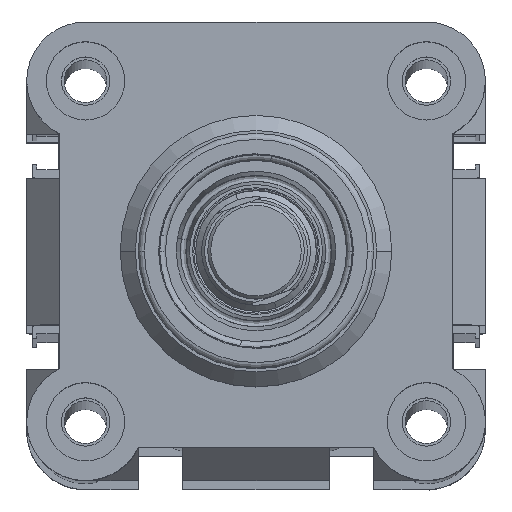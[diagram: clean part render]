
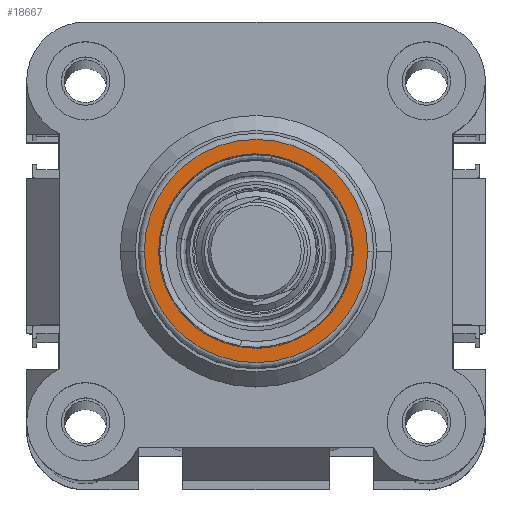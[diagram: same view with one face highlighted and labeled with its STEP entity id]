
A CAD part, top view. The second image highlights one B-rep face of the part: STEP entity #18667.
In plain terms, the highlighted planar face has unit normal (0, 0, 1).
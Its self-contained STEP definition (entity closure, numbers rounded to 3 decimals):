
#747 = CARTESIAN_POINT ( 'NONE',  ( 54., 38., 62. ) ) ;
#2200 = EDGE_LOOP ( 'NONE', ( #9212, #3794 ) ) ;
#2302 = ORIENTED_EDGE ( 'NONE', *, *, #9360, .T. ) ;
#2460 = CIRCLE ( 'NONE', #21101, 16. ) ;
#2568 = CARTESIAN_POINT ( 'NONE',  ( 19.5, 38., 62. ) ) ;
#2616 = FACE_BOUND ( 'NONE', #2200, .T. ) ;
#3293 = CARTESIAN_POINT ( 'NONE',  ( 38., 38., 62. ) ) ;
#3492 = ORIENTED_EDGE ( 'NONE', *, *, #19115, .T. ) ;
#3770 = DIRECTION ( 'NONE',  ( 0., 0., -1. ) ) ;
#3794 = ORIENTED_EDGE ( 'NONE', *, *, #6499, .T. ) ;
#4053 = DIRECTION ( 'NONE',  ( 1., 0., 0. ) ) ;
#5489 = CARTESIAN_POINT ( 'NONE',  ( 22., 38., 62. ) ) ;
#5959 = FACE_OUTER_BOUND ( 'NONE', #16398, .T. ) ;
#6499 = EDGE_CURVE ( 'NONE', #14730, #20166, #2460, .T. ) ;
#6730 = CARTESIAN_POINT ( 'NONE',  ( 38., 38., 62. ) ) ;
#8333 = DIRECTION ( 'NONE',  ( 1., 0., 0. ) ) ;
#8403 = DIRECTION ( 'NONE',  ( 0., 0., 1. ) ) ;
#8589 = CARTESIAN_POINT ( 'NONE',  ( 38., 38., 62. ) ) ;
#9174 = VERTEX_POINT ( 'NONE', #17826 ) ;
#9212 = ORIENTED_EDGE ( 'NONE', *, *, #19258, .T. ) ;
#9360 = EDGE_CURVE ( 'NONE', #15522, #9174, #9737, .T. ) ;
#9737 = CIRCLE ( 'NONE', #13941, 18.5 ) ;
#10171 = CIRCLE ( 'NONE', #19969, 18.5 ) ;
#10488 = CARTESIAN_POINT ( 'NONE',  ( 38., 38., 62. ) ) ;
#11668 = DIRECTION ( 'NONE',  ( 0., 0., 1. ) ) ;
#11740 = DIRECTION ( 'NONE',  ( 1., 0., 0. ) ) ;
#12767 = CIRCLE ( 'NONE', #14608, 16. ) ;
#13345 = DIRECTION ( 'NONE',  ( 1., 0., 0. ) ) ;
#13429 = DIRECTION ( 'NONE',  ( 0., 0., -1. ) ) ;
#13941 = AXIS2_PLACEMENT_3D ( 'NONE', #8589, #11668, #11740 ) ;
#14608 = AXIS2_PLACEMENT_3D ( 'NONE', #10488, #3770, #4053 ) ;
#14730 = VERTEX_POINT ( 'NONE', #5489 ) ;
#15522 = VERTEX_POINT ( 'NONE', #2568 ) ;
#15586 = PLANE ( 'NONE',  #18153 ) ;
#16398 = EDGE_LOOP ( 'NONE', ( #3492, #2302 ) ) ;
#17356 = DIRECTION ( 'NONE',  ( 1., 0., 0. ) ) ;
#17826 = CARTESIAN_POINT ( 'NONE',  ( 56.5, 38., 62. ) ) ;
#18153 = AXIS2_PLACEMENT_3D ( 'NONE', #20728, #19113, #17356 ) ;
#18667 = ADVANCED_FACE ( 'NONE', ( #2616, #5959 ), #15586, .T. ) ;
#19113 = DIRECTION ( 'NONE',  ( 0., 0., 1. ) ) ;
#19115 = EDGE_CURVE ( 'NONE', #9174, #15522, #10171, .T. ) ;
#19258 = EDGE_CURVE ( 'NONE', #20166, #14730, #12767, .T. ) ;
#19969 = AXIS2_PLACEMENT_3D ( 'NONE', #6730, #8403, #8333 ) ;
#20166 = VERTEX_POINT ( 'NONE', #747 ) ;
#20728 = CARTESIAN_POINT ( 'NONE',  ( 38., 38., 62. ) ) ;
#21101 = AXIS2_PLACEMENT_3D ( 'NONE', #3293, #13429, #13345 ) ;
